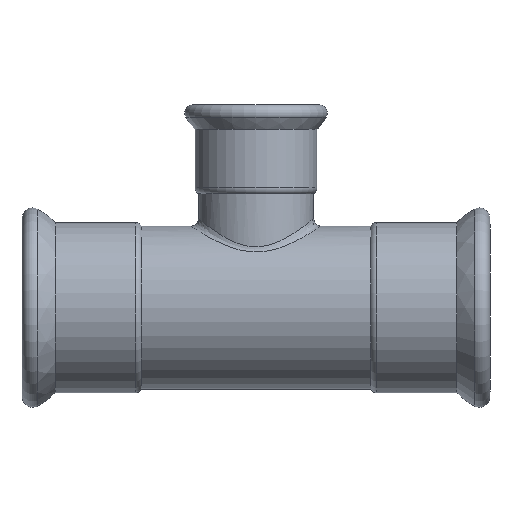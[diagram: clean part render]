
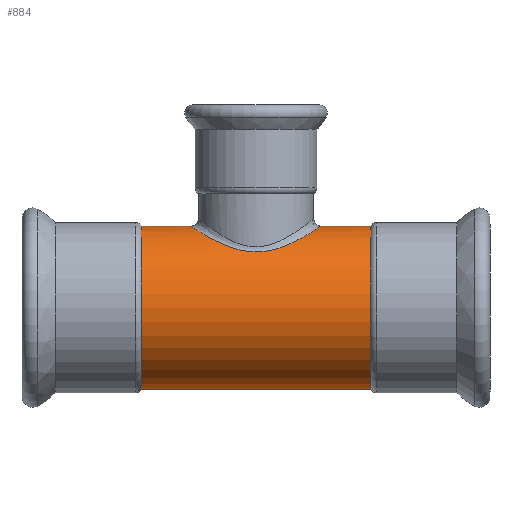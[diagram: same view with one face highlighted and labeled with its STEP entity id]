
A CAD part, front view. The second image highlights one B-rep face of the part: STEP entity #884.
In plain terms, the highlighted cylindrical face has radius 54 mm (diameter 108 mm), a full revolution.
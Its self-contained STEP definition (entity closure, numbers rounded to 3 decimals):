
#16=FACE_BOUND('',#169,.T.);
#22=B_SPLINE_CURVE_WITH_KNOTS('',3,(#2256,#2257,#2258,#2259,#2260,#2261,
#2262,#2263,#2264,#2265,#2266,#2267,#2268,#2269,#2270,#2271,#2272,#2273,
#2274,#2275,#2276,#2277,#2278,#2279,#2280,#2281,#2282,#2283,#2284,#2285,
#2286),.UNSPECIFIED.,.T.,.F.,(4,1,1,1,1,1,1,1,1,1,1,1,1,1,1,1,1,1,1,1,1,
1,1,1,1,1,1,1,4),(-24.045,-23.186,-22.327,
-21.469,-20.61,-19.465,-18.32,
-17.175,-16.602,-16.03,-14.885,
-13.74,-13.167,-12.595,-12.022,
-11.45,-10.877,-10.305,-9.732,
-9.16,-8.015,-6.87,-5.725,
-4.58,-3.435,-2.576,-1.717,
-0.859,0.),.UNSPECIFIED.);
#42=LINE('',#2298,#64);
#64=VECTOR('',#1289,54.);
#82=CYLINDRICAL_SURFACE('',#1017,54.);
#127=FACE_OUTER_BOUND('',#168,.T.);
#168=EDGE_LOOP('',(#729,#730,#731,#732,#733,#734,#735,#736));
#169=EDGE_LOOP('',(#737));
#264=CIRCLE('',#1018,54.);
#265=CIRCLE('',#1019,54.);
#266=CIRCLE('',#1020,54.);
#267=CIRCLE('',#1021,54.);
#268=CIRCLE('',#1022,54.);
#269=CIRCLE('',#1023,54.);
#376=VERTEX_POINT('',#2217);
#380=VERTEX_POINT('',#2292);
#381=VERTEX_POINT('',#2293);
#382=VERTEX_POINT('',#2295);
#383=VERTEX_POINT('',#2297);
#384=VERTEX_POINT('',#2299);
#385=VERTEX_POINT('',#2301);
#508=EDGE_CURVE('',#376,#376,#22,.T.);
#511=EDGE_CURVE('',#380,#381,#264,.T.);
#512=EDGE_CURVE('',#381,#382,#265,.T.);
#513=EDGE_CURVE('',#382,#383,#42,.T.);
#514=EDGE_CURVE('',#384,#383,#266,.T.);
#515=EDGE_CURVE('',#385,#384,#267,.T.);
#516=EDGE_CURVE('',#383,#385,#268,.T.);
#517=EDGE_CURVE('',#382,#380,#269,.T.);
#729=ORIENTED_EDGE('',*,*,#511,.T.);
#730=ORIENTED_EDGE('',*,*,#512,.T.);
#731=ORIENTED_EDGE('',*,*,#513,.T.);
#732=ORIENTED_EDGE('',*,*,#514,.F.);
#733=ORIENTED_EDGE('',*,*,#515,.F.);
#734=ORIENTED_EDGE('',*,*,#516,.F.);
#735=ORIENTED_EDGE('',*,*,#513,.F.);
#736=ORIENTED_EDGE('',*,*,#517,.T.);
#737=ORIENTED_EDGE('',*,*,#508,.F.);
#884=ADVANCED_FACE('',(#127,#16),#82,.T.);
#1017=AXIS2_PLACEMENT_3D('',#2291,#1283,#1284);
#1018=AXIS2_PLACEMENT_3D('',#2294,#1285,#1286);
#1019=AXIS2_PLACEMENT_3D('',#2296,#1287,#1288);
#1020=AXIS2_PLACEMENT_3D('',#2300,#1290,#1291);
#1021=AXIS2_PLACEMENT_3D('',#2302,#1292,#1293);
#1022=AXIS2_PLACEMENT_3D('',#2303,#1294,#1295);
#1023=AXIS2_PLACEMENT_3D('',#2304,#1296,#1297);
#1283=DIRECTION('center_axis',(1.,0.,0.));
#1284=DIRECTION('ref_axis',(0.,1.,0.));
#1285=DIRECTION('center_axis',(1.,0.,0.));
#1286=DIRECTION('ref_axis',(0.,1.,0.));
#1287=DIRECTION('center_axis',(1.,0.,0.));
#1288=DIRECTION('ref_axis',(0.,1.,0.));
#1289=DIRECTION('',(1.,0.,0.));
#1290=DIRECTION('center_axis',(1.,0.,0.));
#1291=DIRECTION('ref_axis',(0.,1.,0.));
#1292=DIRECTION('center_axis',(1.,0.,0.));
#1293=DIRECTION('ref_axis',(0.,1.,0.));
#1294=DIRECTION('center_axis',(1.,0.,0.));
#1295=DIRECTION('ref_axis',(0.,1.,0.));
#1296=DIRECTION('center_axis',(1.,0.,0.));
#1297=DIRECTION('ref_axis',(0.,1.,0.));
#2217=CARTESIAN_POINT('',(0.,39.402,36.926));
#2256=CARTESIAN_POINT('Ctrl Pts',(0.,39.402,
36.926));
#2257=CARTESIAN_POINT('Ctrl Pts',(-3.354,39.402,36.926));
#2258=CARTESIAN_POINT('Ctrl Pts',(-10.067,38.663,37.734));
#2259=CARTESIAN_POINT('Ctrl Pts',(-19.128,35.65,40.669));
#2260=CARTESIAN_POINT('Ctrl Pts',(-27.06,31.038,44.348));
#2261=CARTESIAN_POINT('Ctrl Pts',(-34.406,24.374,48.449));
#2262=CARTESIAN_POINT('Ctrl Pts',(-40.467,15.136,52.27));
#2263=CARTESIAN_POINT('Ctrl Pts',(-43.626,3.143,54.39));
#2264=CARTESIAN_POINT('Ctrl Pts',(-42.731,-7.235,53.78));
#2265=CARTESIAN_POINT('Ctrl Pts',(-40.019,-14.921,52.002));
#2266=CARTESIAN_POINT('Ctrl Pts',(-36.185,-21.965,49.568));
#2267=CARTESIAN_POINT('Ctrl Pts',(-29.513,-29.424,45.592));
#2268=CARTESIAN_POINT('Ctrl Pts',(-20.974,-34.777,41.41));
#2269=CARTESIAN_POINT('Ctrl Pts',(-13.09,-37.693,38.695));
#2270=CARTESIAN_POINT('Ctrl Pts',(-6.7,-39.079,37.274));
#2271=CARTESIAN_POINT('Ctrl Pts',(0.014,-39.564,
36.75));
#2272=CARTESIAN_POINT('Ctrl Pts',(6.728,-39.076,37.277));
#2273=CARTESIAN_POINT('Ctrl Pts',(13.122,-37.682,38.706));
#2274=CARTESIAN_POINT('Ctrl Pts',(19.034,-35.498,40.74));
#2275=CARTESIAN_POINT('Ctrl Pts',(24.454,-32.594,43.117));
#2276=CARTESIAN_POINT('Ctrl Pts',(30.885,-27.894,46.407));
#2277=CARTESIAN_POINT('Ctrl Pts',(37.529,-20.455,50.371));
#2278=CARTESIAN_POINT('Ctrl Pts',(42.542,-9.321,53.654));
#2279=CARTESIAN_POINT('Ctrl Pts',(43.632,3.159,54.392));
#2280=CARTESIAN_POINT('Ctrl Pts',(40.458,15.152,52.264));
#2281=CARTESIAN_POINT('Ctrl Pts',(34.382,24.41,48.434));
#2282=CARTESIAN_POINT('Ctrl Pts',(27.015,31.066,44.326));
#2283=CARTESIAN_POINT('Ctrl Pts',(19.118,35.653,40.666));
#2284=CARTESIAN_POINT('Ctrl Pts',(10.066,38.663,37.734));
#2285=CARTESIAN_POINT('Ctrl Pts',(3.354,39.402,36.926));
#2286=CARTESIAN_POINT('Ctrl Pts',(0.,39.402,
36.926));
#2291=CARTESIAN_POINT('Origin',(-65.51,0.,0.));
#2292=CARTESIAN_POINT('',(-76.02,54.,0.));
#2293=CARTESIAN_POINT('',(-76.02,0.,54.));
#2294=CARTESIAN_POINT('Origin',(-76.02,0.,0.));
#2295=CARTESIAN_POINT('',(-76.02,-54.,0.));
#2296=CARTESIAN_POINT('Origin',(-76.02,0.,0.));
#2297=CARTESIAN_POINT('',(76.02,-54.,0.));
#2298=CARTESIAN_POINT('',(-65.51,-54.,0.));
#2299=CARTESIAN_POINT('',(76.02,0.,54.));
#2300=CARTESIAN_POINT('Origin',(76.02,0.,0.));
#2301=CARTESIAN_POINT('',(76.02,54.,0.));
#2302=CARTESIAN_POINT('Origin',(76.02,0.,0.));
#2303=CARTESIAN_POINT('Origin',(76.02,0.,0.));
#2304=CARTESIAN_POINT('Origin',(-76.02,0.,0.));
